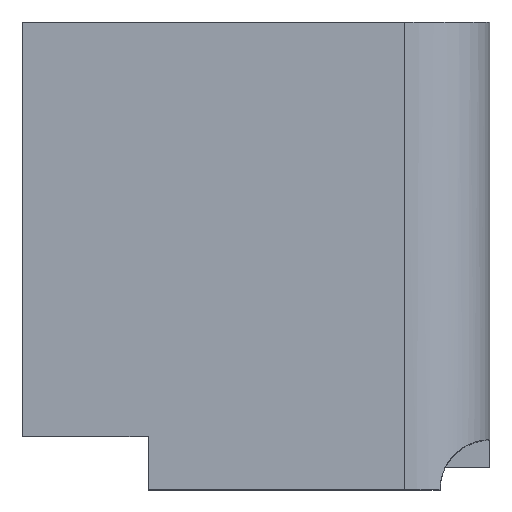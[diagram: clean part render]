
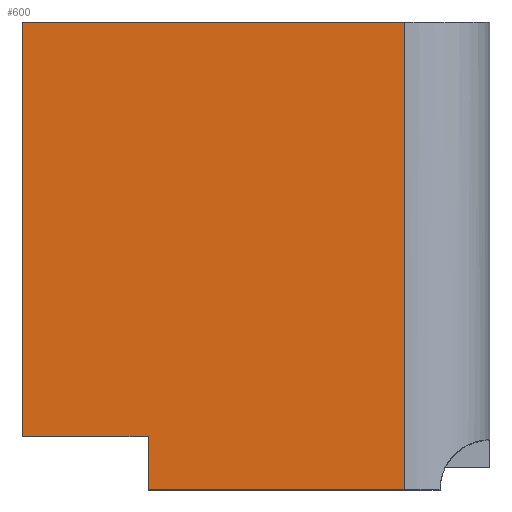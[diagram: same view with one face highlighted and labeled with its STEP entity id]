
A CAD part, top view. The second image highlights one B-rep face of the part: STEP entity #600.
In plain terms, the highlighted planar face has unit normal (0, 0, 1).
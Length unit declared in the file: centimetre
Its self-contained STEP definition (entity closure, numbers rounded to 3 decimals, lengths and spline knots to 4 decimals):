
#7 = DIRECTION ( 'NONE',  ( 1., 0., 0. ) ) ;
#16 = DIRECTION ( 'NONE',  ( -1., 0., 0. ) ) ;
#21 = VECTOR ( 'NONE', #145, 100. ) ;
#26 = VERTEX_POINT ( 'NONE', #534 ) ;
#29 = DIRECTION ( 'NONE',  ( -1., 0., 0. ) ) ;
#38 = VERTEX_POINT ( 'NONE', #428 ) ;
#40 = CARTESIAN_POINT ( 'NONE',  ( 269.1486, 114.108, 1000. ) ) ;
#43 = DIRECTION ( 'NONE',  ( 0., 1., 0. ) ) ;
#91 = VECTOR ( 'NONE', #7, 100. ) ;
#105 = VECTOR ( 'NONE', #16, 100. ) ;
#107 = LINE ( 'NONE', #255, #146 ) ;
#135 = LINE ( 'NONE', #478, #21 ) ;
#137 = ORIENTED_EDGE ( 'NONE', *, *, #451, .T. ) ;
#145 = DIRECTION ( 'NONE',  ( 0., 1., 0. ) ) ;
#146 = VECTOR ( 'NONE', #453, 100. ) ;
#169 = EDGE_LOOP ( 'NONE', ( #636, #278, #137, #282, #334, #246 ) ) ;
#202 = CARTESIAN_POINT ( 'NONE',  ( 269.1486, 0., 1000. ) ) ;
#204 = CARTESIAN_POINT ( 'NONE',  ( 0., 0., 1000. ) ) ;
#219 = FACE_OUTER_BOUND ( 'NONE', #169, .T. ) ;
#244 = CARTESIAN_POINT ( 'NONE',  ( 817.7546, 1000., 1000. ) ) ;
#246 = ORIENTED_EDGE ( 'NONE', *, *, #503, .T. ) ;
#250 = VECTOR ( 'NONE', #29, 100. ) ;
#255 = CARTESIAN_POINT ( 'NONE',  ( 0., 1000., 1000. ) ) ;
#275 = DIRECTION ( 'NONE',  ( 1., 0., 0. ) ) ;
#278 = ORIENTED_EDGE ( 'NONE', *, *, #562, .F. ) ;
#282 = ORIENTED_EDGE ( 'NONE', *, *, #573, .T. ) ;
#294 = CARTESIAN_POINT ( 'NONE',  ( 817.7546, 1000., 1000. ) ) ;
#334 = ORIENTED_EDGE ( 'NONE', *, *, #546, .T. ) ;
#407 = DIRECTION ( 'NONE',  ( 0., 0., 1. ) ) ;
#416 = PLANE ( 'NONE',  #492 ) ;
#417 = VERTEX_POINT ( 'NONE', #202 ) ;
#428 = CARTESIAN_POINT ( 'NONE',  ( 0., 1000., 1000. ) ) ;
#445 = EDGE_CURVE ( 'NONE', #524, #530, #548, .T. ) ;
#451 = EDGE_CURVE ( 'NONE', #417, #26, #551, .T. ) ;
#453 = DIRECTION ( 'NONE',  ( 0., -1., 0. ) ) ;
#478 = CARTESIAN_POINT ( 'NONE',  ( 269.1486, 0., 1000. ) ) ;
#492 = AXIS2_PLACEMENT_3D ( 'NONE', #511, #407, #275 ) ;
#493 = CARTESIAN_POINT ( 'NONE',  ( 0., 114.108, 1000. ) ) ;
#503 = EDGE_CURVE ( 'NONE', #38, #530, #107, .T. ) ;
#511 = CARTESIAN_POINT ( 'NONE',  ( 0., 0., 1000. ) ) ;
#522 = CARTESIAN_POINT ( 'NONE',  ( 0., 1000., 1000. ) ) ;
#524 = VERTEX_POINT ( 'NONE', #40 ) ;
#530 = VERTEX_POINT ( 'NONE', #618 ) ;
#534 = CARTESIAN_POINT ( 'NONE',  ( 817.7546, 0., 1000. ) ) ;
#545 = VECTOR ( 'NONE', #43, 100. ) ;
#546 = EDGE_CURVE ( 'NONE', #560, #38, #576, .T. ) ;
#548 = LINE ( 'NONE', #493, #105 ) ;
#551 = LINE ( 'NONE', #204, #91 ) ;
#560 = VERTEX_POINT ( 'NONE', #244 ) ;
#562 = EDGE_CURVE ( 'NONE', #417, #524, #135, .T. ) ;
#573 = EDGE_CURVE ( 'NONE', #26, #560, #631, .T. ) ;
#576 = LINE ( 'NONE', #522, #250 ) ;
#600 = ADVANCED_FACE ( 'NONE', ( #219 ), #416, .T. ) ;
#618 = CARTESIAN_POINT ( 'NONE',  ( 0., 114.108, 1000. ) ) ;
#631 = LINE ( 'NONE', #294, #545 ) ;
#636 = ORIENTED_EDGE ( 'NONE', *, *, #445, .F. ) ;
